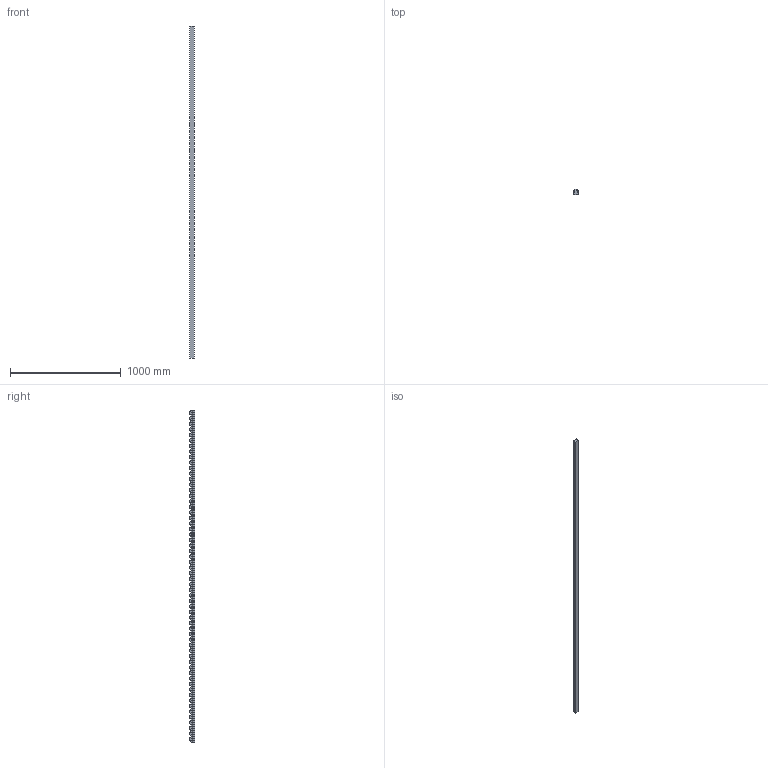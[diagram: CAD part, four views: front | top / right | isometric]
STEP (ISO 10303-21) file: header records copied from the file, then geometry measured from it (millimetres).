
FILE_DESCRIPTION (( 'STEP AP214' ), '1' );
FILE_NAME ('JB-57030.step', '2024-02-15T05:03:25', ( 'catia' ), ( 'HP Inc.' ), 'SwSTEP 2.0', 'SolidWorks 2021', '' );
FILE_SCHEMA (( 'AUTOMOTIVE_DESIGN' ));
Length unit declared in the file: millimetre
Products named in the file (1): JB-57030
Bounding box: 40 x 46 x 3000 mm (x, y, z)
Volume: 4079858.6 mm3; surface area: 554735.5 mm2
Topology: 1 solids, 1 shells, 194 faces, 396 edges, 264 vertices
Faces by surface type: plane 134, cylinder 60
Entity records: 5134 total; most frequent: DIRECTION 906, CARTESIAN_POINT 855, ORIENTED_EDGE 792, EDGE_CURVE 396, AXIS2_PLACEMENT_3D 315, VECTOR 276, LINE 276, VERTEX_POINT 264
